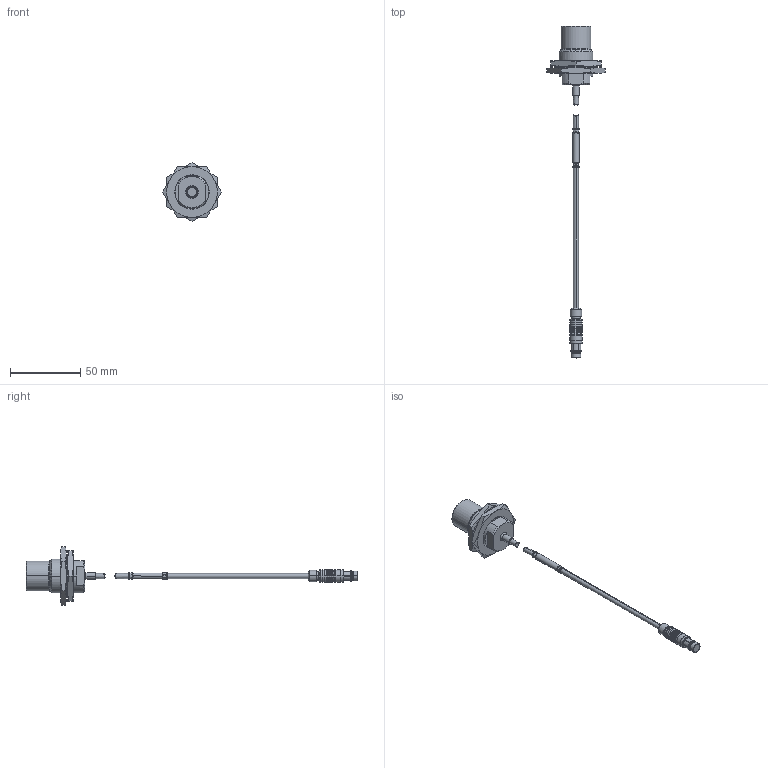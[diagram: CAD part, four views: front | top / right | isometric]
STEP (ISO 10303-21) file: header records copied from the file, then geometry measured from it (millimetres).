
FILE_DESCRIPTION((''),'2;1');
FILE_NAME('0000335232_ASM','2020-09-17T07:14:33',('11000775'),(''),'CREO PARAMETRIC BY PTC INC, 2020044','CREO PARAMETRIC BY PTC INC, 2020044','');
FILE_SCHEMA(('AUTOMOTIVE_DESIGN { 1 0 10303 214 1 1 1 1 }'));
Length unit declared in the file: millimetre
Products named in the file (4): 0000335240; 0000040106; 0000181487; 0000335232_ASM
Assembly tree (4 placements, depth 2):
  0000335232_ASM
    0000335240
    0000040106  x2
    0000181487
Bounding box: 41.57 x 236.01 x 41.57 mm (x, y, z)
Volume: 25676.3 mm3; surface area: 13009.4 mm2
Topology: 4 solids, 9 shells, 397 faces, 1001 edges, 642 vertices
Faces by surface type: cylinder 146, plane 106, cone 101, torus 40, revolution 4
Entity records: 18442 total; most frequent: CARTESIAN_POINT 3702, DIRECTION 1961, ORIENTED_EDGE 1834, PRESENTATION_STYLE_ASSIGNMENT 1004, STYLED_ITEM 950, CURVE_STYLE 945, EDGE_CURVE 925, AXIS2_PLACEMENT_3D 808
